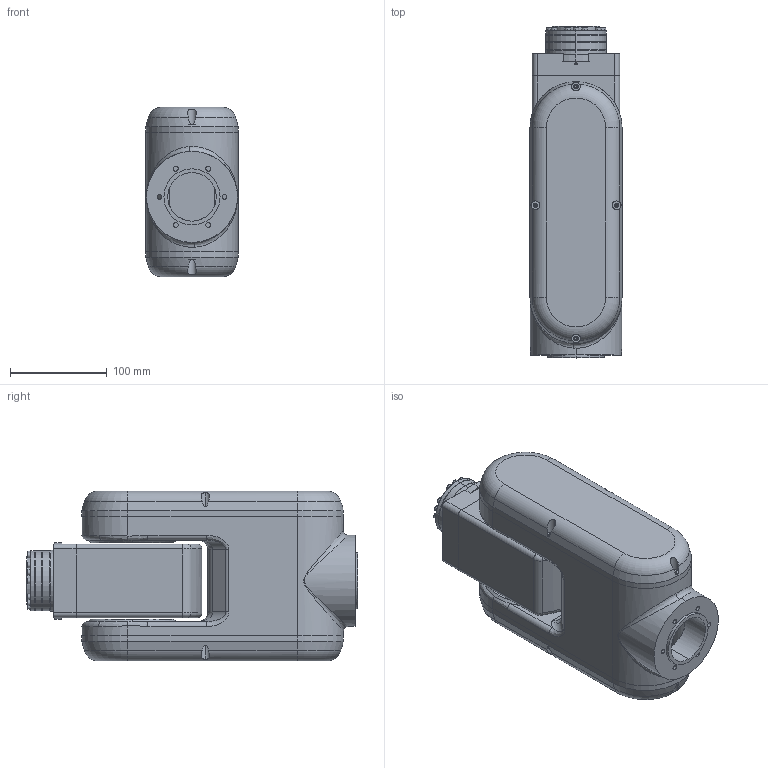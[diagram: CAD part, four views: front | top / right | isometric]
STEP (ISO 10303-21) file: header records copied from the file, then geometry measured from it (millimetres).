
FILE_DESCRIPTION (( 'STEP AP214' ), '1' );
FILE_NAME ('AC12模型图.STEP', '2024-07-11T13:15:50', ( '微软用户' ), ( '微软中国' ), 'SwSTEP 2.0', 'SolidWorks 2020', '' );
FILE_SCHEMA (( 'AUTOMOTIVE_DESIGN' ));
Length unit declared in the file: millimetre
Products named in the file (1): AC12耀倰芞
Bounding box: 95 x 342.6 x 175.1 mm (x, y, z)
Surface area: 271396.1 mm2 (no closed solid volume)
Topology: 0 solids, 18 shells, 506 faces, 1604 edges, 1072 vertices
Faces by surface type: cylinder 220, plane 174, cone 49, bspline 48, torus 15
Entity records: 26095 total; most frequent: CARTESIAN_POINT 6246, DIRECTION 3163, ORIENTED_EDGE 2707, EDGE_CURVE 1579, AXIS2_PLACEMENT_3D 1232, VERTEX_POINT 1072, CIRCLE 773, VECTOR 699
